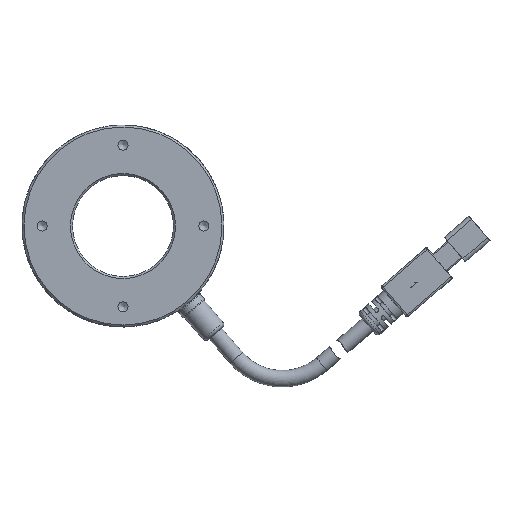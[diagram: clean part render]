
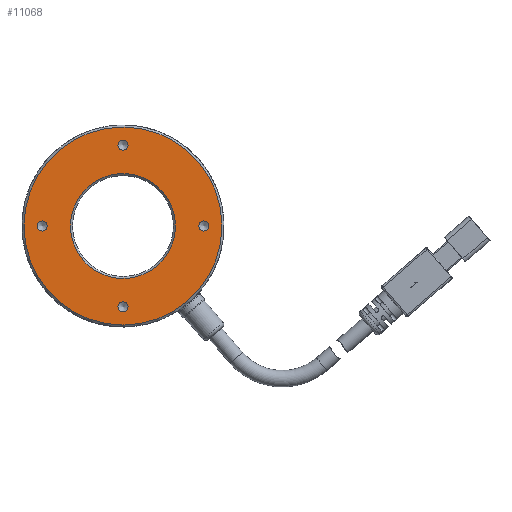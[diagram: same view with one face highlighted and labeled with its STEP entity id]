
A CAD part, front view. The second image highlights one B-rep face of the part: STEP entity #11068.
In plain terms, the highlighted planar face has unit normal (0, -1, 0).
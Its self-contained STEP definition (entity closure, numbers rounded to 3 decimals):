
#267 = DIRECTION ( 'NONE',  ( 0., 0., -1. ) ) ;
#371 = CARTESIAN_POINT ( 'NONE',  ( 20., 30.955, 0. ) ) ;
#559 = CARTESIAN_POINT ( 'NONE',  ( 0., 30.955, 24.5 ) ) ;
#758 = AXIS2_PLACEMENT_3D ( 'NONE', #14255, #19163, #267 ) ;
#827 = ORIENTED_EDGE ( 'NONE', *, *, #9632, .F. ) ;
#1066 = AXIS2_PLACEMENT_3D ( 'NONE', #12299, #7971, #18738 ) ;
#2327 = CARTESIAN_POINT ( 'NONE',  ( 0., 30.955, -21.25 ) ) ;
#2350 = CIRCLE ( 'NONE', #18080, 1.25 ) ;
#3258 = CIRCLE ( 'NONE', #19958, 1.25 ) ;
#3322 = EDGE_LOOP ( 'NONE', ( #827 ) ) ;
#3359 = VERTEX_POINT ( 'NONE', #3597 ) ;
#3450 = ORIENTED_EDGE ( 'NONE', *, *, #13495, .T. ) ;
#3597 = CARTESIAN_POINT ( 'NONE',  ( 0., 30.955, 13. ) ) ;
#4184 = FACE_BOUND ( 'NONE', #11606, .T. ) ;
#4299 = DIRECTION ( 'NONE',  ( 0., 1., 0. ) ) ;
#4500 = AXIS2_PLACEMENT_3D ( 'NONE', #11944, #13302, #13507 ) ;
#4885 = DIRECTION ( 'NONE',  ( 0., 0., -1. ) ) ;
#4995 = CIRCLE ( 'NONE', #758, 1.25 ) ;
#5282 = VERTEX_POINT ( 'NONE', #8189 ) ;
#5333 = CARTESIAN_POINT ( 'NONE',  ( 0., 30.955, 18.75 ) ) ;
#5377 = FACE_OUTER_BOUND ( 'NONE', #17886, .T. ) ;
#5389 = CIRCLE ( 'NONE', #1066, 1.25 ) ;
#5937 = DIRECTION ( 'NONE',  ( 0., 0., 1. ) ) ;
#6261 = VERTEX_POINT ( 'NONE', #14545 ) ;
#6391 = DIRECTION ( 'NONE',  ( 0., 0., 1. ) ) ;
#6495 = EDGE_LOOP ( 'NONE', ( #10832 ) ) ;
#6508 = DIRECTION ( 'NONE',  ( 0., -1., 0. ) ) ;
#7362 = CIRCLE ( 'NONE', #9738, 24.5 ) ;
#7437 = CARTESIAN_POINT ( 'NONE',  ( -25., 30.955, 0. ) ) ;
#7451 = VERTEX_POINT ( 'NONE', #2327 ) ;
#7722 = ORIENTED_EDGE ( 'NONE', *, *, #7893, .F. ) ;
#7893 = EDGE_CURVE ( 'NONE', #7451, #7451, #4995, .T. ) ;
#7971 = DIRECTION ( 'NONE',  ( 0., -1., 0. ) ) ;
#8038 = FACE_BOUND ( 'NONE', #3322, .T. ) ;
#8096 = EDGE_CURVE ( 'NONE', #3359, #3359, #11042, .T. ) ;
#8189 = CARTESIAN_POINT ( 'NONE',  ( 20., 30.955, -1.25 ) ) ;
#9190 = VERTEX_POINT ( 'NONE', #5333 ) ;
#9494 = FACE_BOUND ( 'NONE', #6495, .T. ) ;
#9632 = EDGE_CURVE ( 'NONE', #5282, #5282, #3258, .T. ) ;
#9738 = AXIS2_PLACEMENT_3D ( 'NONE', #15145, #12156, #5937 ) ;
#9994 = DIRECTION ( 'NONE',  ( 0., -1., 0. ) ) ;
#10117 = DIRECTION ( 'NONE',  ( 0., 0., -1. ) ) ;
#10148 = VERTEX_POINT ( 'NONE', #559 ) ;
#10795 = ORIENTED_EDGE ( 'NONE', *, *, #14587, .F. ) ;
#10832 = ORIENTED_EDGE ( 'NONE', *, *, #19197, .F. ) ;
#11042 = CIRCLE ( 'NONE', #4500, 13. ) ;
#11068 = ADVANCED_FACE ( 'NONE', ( #4184, #9494, #19452, #8038, #5377, #17252 ), #19645, .F. ) ;
#11107 = EDGE_LOOP ( 'NONE', ( #13306 ) ) ;
#11606 = EDGE_LOOP ( 'NONE', ( #10795 ) ) ;
#11944 = CARTESIAN_POINT ( 'NONE',  ( 0., 30.955, 0. ) ) ;
#12156 = DIRECTION ( 'NONE',  ( 0., -1., 0. ) ) ;
#12299 = CARTESIAN_POINT ( 'NONE',  ( 0., 30.955, 20. ) ) ;
#13302 = DIRECTION ( 'NONE',  ( 0., 1., 0. ) ) ;
#13306 = ORIENTED_EDGE ( 'NONE', *, *, #8096, .T. ) ;
#13495 = EDGE_CURVE ( 'NONE', #10148, #10148, #7362, .T. ) ;
#13507 = DIRECTION ( 'NONE',  ( 0., 0., 1. ) ) ;
#14255 = CARTESIAN_POINT ( 'NONE',  ( 0., 30.955, -20. ) ) ;
#14520 = AXIS2_PLACEMENT_3D ( 'NONE', #7437, #4299, #6391 ) ;
#14545 = CARTESIAN_POINT ( 'NONE',  ( -20., 30.955, -1.25 ) ) ;
#14587 = EDGE_CURVE ( 'NONE', #9190, #9190, #5389, .T. ) ;
#15145 = CARTESIAN_POINT ( 'NONE',  ( 0., 30.955, 0. ) ) ;
#17220 = EDGE_LOOP ( 'NONE', ( #7722 ) ) ;
#17252 = FACE_BOUND ( 'NONE', #11107, .T. ) ;
#17886 = EDGE_LOOP ( 'NONE', ( #3450 ) ) ;
#18080 = AXIS2_PLACEMENT_3D ( 'NONE', #19287, #9994, #10117 ) ;
#18738 = DIRECTION ( 'NONE',  ( 0., 0., -1. ) ) ;
#19163 = DIRECTION ( 'NONE',  ( 0., -1., 0. ) ) ;
#19197 = EDGE_CURVE ( 'NONE', #6261, #6261, #2350, .T. ) ;
#19287 = CARTESIAN_POINT ( 'NONE',  ( -20., 30.955, 0. ) ) ;
#19452 = FACE_BOUND ( 'NONE', #17220, .T. ) ;
#19645 = PLANE ( 'NONE',  #14520 ) ;
#19958 = AXIS2_PLACEMENT_3D ( 'NONE', #371, #6508, #4885 ) ;
